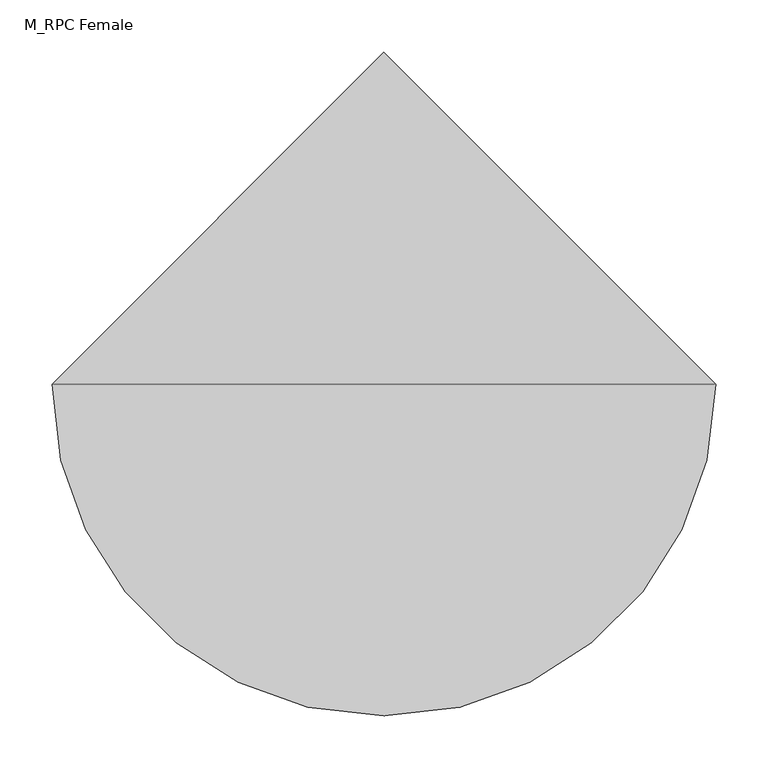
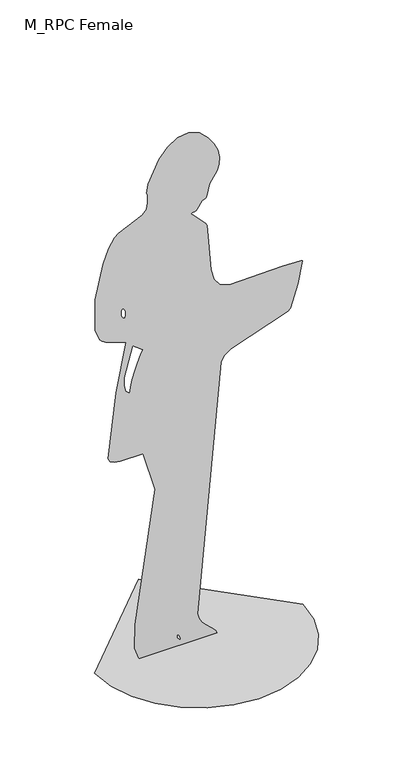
"""IFC4 building model written with IfcOpenShell, lengths in millimetres: proxy geometry, M_RPC Female : Lisa."""

from ifc_helpers import new_model, si_unit, origin, place, context, project, spatial, triangles, source, transform, mapped, element, save


def m_rpc_female_7b1a36b3(model_context):
    return source(origin(), model_context, "Body", "Tessellation", [
        triangles([(-318.6548229, 0.0, 4.24e-05), (-310.2306278, -73.0146203, 4.24e-05), (-286.238633, -140.0668684, 4.24e-05), (-248.5998693, -199.2356223, 4.24e-05), (-199.2356405, -248.5999238, 4.24e-05), (-140.066832, -286.2385603, 4.24e-05), (-73.014584, -310.2306278, 4.24e-05), (1.39e-05, -318.6548229, 4.24e-05), (73.0146294, -310.2306278, 4.24e-05), (140.0668774, -286.2386148, 4.24e-05), (199.2356405, -248.5998693, 4.24e-05), (248.5999784, -199.2356405, 4.24e-05), (286.2385966, -140.0668139, 4.24e-05), (310.2306278, -73.0145703, 4.24e-05), (318.6548229, 2.79e-05, 4.24e-05), (-4.18e-05, 318.6548229, 4.24e-05), (-236.0835367, 0.0026468, 1148.559617), (-237.9070991, 0.0026105, 1144.016217), (-238.9089093, 0.002563, 1138.061784), (-238.7655132, 0.0025116, 1131.6326706), (-237.1535477, 0.002464, 1125.6657383), (-233.7493405, 0.0024275, 1121.0973398), (-228.2294921, 0.0024097, 1118.8639732), (-225.2502771, 0.002423, 1120.5377083), (-223.8898042, 0.0024609, 1125.2767359), (-225.155897, 0.0025697, 1138.8994509), (-227.3477327, 0.0026205, 1145.257929), (-230.2887596, 0.0026554, 1149.6309179), (-233.7617126, 0.0026644, 1150.7555586), (-228.8641917, 0.0008634, 925.2709934), (-229.6934652, 0.0006601, 899.8162971), (-224.5597306, 0.0005033, 880.177961), (-211.6329034, 0.0004187, 869.5895084), (-209.6239417, 0.0005698, 888.5118999), (-204.3872701, 0.0007466, 910.6406364), (-197.1084447, 0.0009324, 933.9122538), (-188.9728585, 0.001111, 956.2630697), (-181.1660494, 0.0012656, 975.6296202), (-174.8733921, 0.00138, 989.9482956), (-171.2803883, 0.0014376, 997.1555592), (-202.5210322, 0.0016247, 1020.5861057), (-66.9849284, -0.00625, 34.6528176), (-67.3191331, -0.0062754, 31.4693614), (-66.0977869, -0.0063066, 27.5659478), (-61.2032955, -0.0063666, 20.0446886), (-58.6376045, -0.0063858, 17.6494746), (-56.7312665, -0.0063911, 16.9795697), (-55.5294866, -0.0063793, 18.4546126), (-55.6450637, -0.0063551, 21.4948817), (-58.5206149, -0.0062906, 29.5655623), (-60.6268045, -0.0062612, 33.2437376), (-62.7427137, -0.0062409, 35.7822295), (-64.5414275, -0.0062352, 36.505046), (-196.6625417, -0.0062164, 38.8580706), (-195.4354364, -0.0056161, 114.014189), (-133.7754555, -0.0022844, 531.1489019), (-171.402492, -0.0012523, 660.3827288), (-241.8533698, -0.0012538, 660.1863745), (-258.8311126, -0.0012294, 663.2414206), (-271.6695731, -0.0011781, 669.6644297), (-278.4262465, -0.0010914, 680.5183456), (-253.9349725, 0.0005466, 885.598633), (-223.2262001, 0.0017758, 1039.5013029), (-285.405944, 0.0019435, 1060.4989311), (-295.9896366, 0.0019962, 1067.1027431), (-303.7278089, 0.0020581, 1074.8502354), (-317.3085388, 0.0023326, 1109.217469), (-317.9940711, 0.0031331, 1209.447543), (-294.0422809, 0.0039902, 1316.7479702), (-276.8263804, 0.0043352, 1359.9527458), (-258.2499889, 0.0045689, 1389.2095356), (-246.2579338, 0.0046489, 1399.2228779), (-174.1938369, 0.0049131, 1432.3050156), (-163.3074919, 0.0050062, 1443.9621529), (-160.4360829, 0.0050518, 1449.6666012), (-158.1680527, 0.0051123, 1457.2408482), (-156.6087911, 0.005182, 1465.9751987), (-157.2364054, 0.0053902, 1492.035672), (-159.5651331, 0.0054403, 1498.3079636), (-154.8379144, 0.005668, 1526.8156712), (-121.2817323, 0.0062128, 1595.0304028), (-95.2937201, 0.0064508, 1624.8240784), (-65.0597597, 0.006613, 1645.1333038), (-32.0003224, 0.0066598, 1651.0009689), (2.4641026, 0.0065518, 1637.4705448), (28.9675315, 0.0063504, 1612.2571129), (47.2368605, 0.0061453, 1586.5794651), (58.1910656, 0.0059436, 1561.3243206), (62.7491359, 0.0057523, 1537.3785439), (61.8300922, 0.0055786, 1515.629726), (56.3528739, 0.0054295, 1496.9638596), (33.2519811, 0.00515, 1461.9609089), (23.0950474, 0.0048403, 1423.1943798), (21.6613095, 0.0048225, 1420.963266), (20.9385611, 0.0048135, 1419.83848), (20.4209692, 0.0048099, 1419.3768803), (19.6026893, 0.0048079, 1419.1348892), (17.9778975, 0.0048042, 1418.6699467), (15.0407391, 0.0047952, 1417.5383297), (10.2853812, 0.0047773, 1415.2968967), (-5.529673, 0.0046024, 1393.3985241), (-9.1305876, 0.0045775, 1390.2898476), (-13.8403082, 0.004562, 1388.3424374), (-20.2838023, 0.0045566, 1387.6639904), (-23.1512645, 0.0045397, 1385.5529274), (-19.3121819, 0.0044929, 1379.693256), (20.1347971, 0.0041698, 1339.2358418), (25.2754898, 0.0040959, 1329.9824821), (37.7544497, 0.0029161, 1182.267734), (47.125353, 0.0026493, 1148.8685371), (64.8742333, 0.0024555, 1124.6027945), (93.9398783, 0.0023655, 1113.3317528), (255.9275289, 0.0024004, 1117.7099739), (313.4804658, 0.002378, 1114.9071653), (317.035227, 0.0023681, 1113.6608025), (317.6682552, 0.0023643, 1113.1859768), (317.9940711, 0.0023603, 1112.6809204), (303.9523773, 0.0018153, 1044.4505648), (280.7537388, 0.001235, 971.7932991), (273.2483103, 0.0011828, 965.2641191), (98.5043072, 0.0007078, 905.7863543), (77.1590621, 0.0005851, 890.4204317), (68.2314048, 0.0004395, 872.1929832), (-3.3617708, -0.0058615, 83.284533), (-0.0366878, -0.0059949, 66.5920518), (8.0270077, -0.0061069, 52.565923), (19.0289813, -0.0062027, 40.5652338), (42.6463931, -0.0063664, 20.0769518), (51.6611408, -0.0064444, 10.3074218), (56.4128039, -0.0065267, 0.0), (-183.261779, -0.0065267, 0.0)], [[15, 16, 1], [14, 15, 1], [14, 1, 2], [13, 14, 2], [13, 2, 3], [13, 3, 4], [12, 13, 4], [11, 12, 4], [11, 4, 5], [11, 5, 6], [11, 6, 7], [11, 7, 8], [11, 8, 9], [11, 9, 10], [33, 56, 57], [39, 40, 53], [38, 39, 53], [37, 38, 53], [129, 130, 131], [128, 129, 131], [22, 23, 63], [33, 57, 58], [33, 58, 59], [33, 59, 60], [33, 60, 61], [33, 61, 62], [32, 33, 62], [31, 32, 62], [30, 31, 62], [41, 30, 62], [41, 62, 63], [22, 63, 64], [22, 64, 65], [22, 65, 66], [22, 66, 67], [21, 22, 67], [20, 21, 67], [19, 20, 67], [18, 19, 67], [18, 67, 68], [17, 18, 68], [29, 17, 68], [63, 23, 24], [52, 53, 40], [37, 53, 42], [29, 68, 69], [28, 29, 69], [41, 63, 24], [115, 116, 117], [114, 115, 117], [114, 117, 118], [113, 114, 118], [113, 118, 119], [113, 119, 120], [112, 113, 120], [112, 120, 121], [111, 112, 121], [111, 121, 122], [28, 69, 70], [28, 70, 71], [28, 71, 72], [28, 72, 73], [27, 28, 73], [40, 41, 24], [40, 24, 25], [51, 52, 40], [110, 111, 122], [110, 122, 123], [27, 73, 74], [83, 84, 85], [82, 83, 85], [82, 85, 86], [81, 82, 86], [81, 86, 87], [81, 87, 88], [81, 88, 89], [81, 89, 90], [81, 90, 91], [80, 81, 91], [80, 91, 92], [79, 80, 92], [78, 79, 92], [77, 78, 92], [77, 92, 93], [77, 93, 94], [77, 94, 95], [77, 95, 96], [77, 96, 97], [77, 97, 98], [77, 98, 99], [77, 99, 100], [76, 77, 100], [76, 100, 101], [76, 101, 102], [76, 102, 103], [76, 103, 104], [76, 104, 105], [75, 76, 105], [74, 75, 105], [27, 74, 105], [27, 105, 106], [27, 106, 107], [27, 107, 108], [27, 108, 109], [26, 27, 109], [25, 26, 109], [25, 109, 110], [25, 110, 123], [40, 25, 123], [51, 40, 123], [51, 123, 124], [51, 124, 125], [50, 51, 125], [50, 125, 126], [49, 50, 126], [49, 126, 127], [48, 49, 127], [48, 127, 128], [47, 48, 128], [47, 128, 131], [46, 47, 131], [45, 46, 131], [44, 45, 131], [43, 44, 131], [43, 131, 54], [43, 54, 55], [42, 43, 55], [56, 33, 34], [56, 34, 35], [56, 35, 36], [56, 36, 37], [56, 37, 42], [56, 42, 55]], closed=False),
    ])


if __name__ == "__main__":
    model = new_model("IFC4")
    model_context = context("Model", 3, world=origin())
    ifc_project = project(units=[si_unit("LENGTHUNIT", "METRE", prefix="MILLI")], contexts=[model_context])
    site = spatial("IfcSite", under=ifc_project)
    building = spatial("IfcBuilding", under=site)
    placement = place(None, origin())
    m_rpc_female_shape = m_rpc_female_7b1a36b3(model_context)
    element("IfcBuildingElementProxy", 1, Name="M_RPC Female : Lisa", ObjectType="M_RPC Female : Lisa", at=placement, inside=building, context=model_context, shape_type="MappedRepresentation", body=[
        mapped(m_rpc_female_shape, transform((0.0, 0.0, 0.0), x_axis=(1.0, 0.0, 0.0), y_axis=(0.0, 1.0, 0.0), z_axis=(0.0, 0.0, 1.0))),
    ])
    save(model, "model.ifc")
